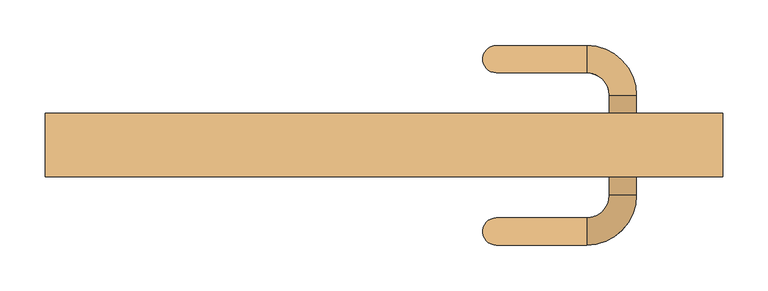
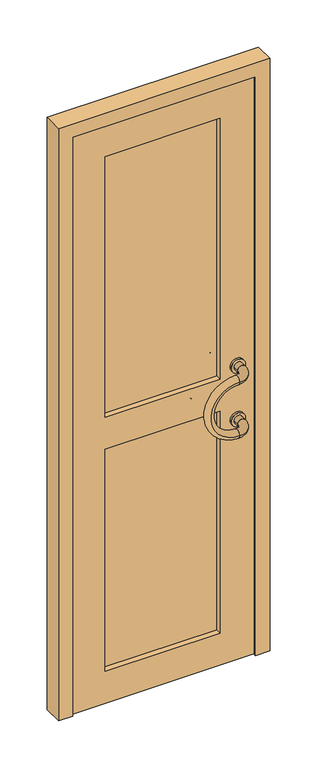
"""IFC4 building model written with IfcOpenShell, lengths in millimetres: door geometry, Simple vitrée : Simple vitrée."""

from ifc_helpers import new_model, si_unit, point, frame, frame_2d, origin, place, context, project, spatial, polyline, circle_curve, ellipse_curve, trimmed, segment, composite_curve, outline, extrude, source, transform, mapped, element, save
from ifc_brep_helpers import plane_surface, revolved_surface, advanced_brep


def door_7b7904bd(model_context):
    return source(origin(), model_context, "Body", "SolidModel", [
        extrude(outline(composite_curve([segment(trimmed(circle_curve(frame_2d((1100.0, 263.3150857)), 25.0), [point((1100.0, 288.3150857))], [point((1100.0, 238.3150857))], False, "CARTESIAN"), True, "CONTINUOUS"), segment(trimmed(circle_curve(frame_2d((1100.0, 263.3150857)), 25.0), [point((1100.0, 238.3150857))], [point((1100.0, 288.3150857))], False, "CARTESIAN"), True, "CONTINUOUS")], self_intersect=False), holes=[composite_curve([segment(trimmed(circle_curve(frame_2d((1100.0, 263.3150857)), 15.0), [point((1100.0, 278.3150857))], [point((1100.0, 248.3150857))], True, "CARTESIAN"), True, "CONTINUOUS"), segment(trimmed(circle_curve(frame_2d((1100.0, 263.3150857)), 15.0), [point((1100.0, 248.3150857))], [point((1100.0, 278.3150857))], True, "CARTESIAN"), True, "CONTINUOUS")], self_intersect=False)]), frame((0.0, -43.0, 0.0), z_axis=(0.0, 1.0, 0.0), x_axis=(0.0, 0.0, 1.0)), (0.0, 0.0, 1.0), 8.0),
        extrude(outline(composite_curve([segment(trimmed(circle_curve(frame_2d((900.0, 263.3150857)), 25.0), [point((900.0, 288.3150857))], [point((900.0, 238.3150857))], False, "CARTESIAN"), True, "CONTINUOUS"), segment(trimmed(circle_curve(frame_2d((900.0, 263.3150857)), 25.0), [point((900.0, 238.3150857))], [point((900.0, 288.3150857))], False, "CARTESIAN"), True, "CONTINUOUS")], self_intersect=False), holes=[composite_curve([segment(trimmed(circle_curve(frame_2d((900.0, 263.3150857)), 15.0), [point((900.0, 278.3150857))], [point((900.0, 248.3150857))], True, "CARTESIAN"), True, "CONTINUOUS"), segment(trimmed(circle_curve(frame_2d((900.0, 263.3150857)), 15.0), [point((900.0, 248.3150857))], [point((900.0, 278.3150857))], True, "CARTESIAN"), True, "CONTINUOUS")], self_intersect=False)]), frame((0.0, -43.0, 0.0), z_axis=(0.0, 1.0, 0.0), x_axis=(0.0, 0.0, 1.0)), (0.0, 0.0, 1.0), 8.0),
        extrude(outline(composite_curve([segment(trimmed(circle_curve(frame_2d((1100.0, 263.3150857)), 25.0), [point((1100.0, 288.3150857))], [point((1100.0, 238.3150857))], False, "CARTESIAN"), True, "CONTINUOUS"), segment(trimmed(circle_curve(frame_2d((1100.0, 263.3150857)), 25.0), [point((1100.0, 238.3150857))], [point((1100.0, 288.3150857))], False, "CARTESIAN"), True, "CONTINUOUS")], self_intersect=False), holes=[composite_curve([segment(trimmed(circle_curve(frame_2d((1100.0, 263.3150857)), 15.0), [point((1100.0, 278.3150857))], [point((1100.0, 248.3150857))], True, "CARTESIAN"), True, "CONTINUOUS"), segment(trimmed(circle_curve(frame_2d((1100.0, 263.3150857)), 15.0), [point((1100.0, 248.3150857))], [point((1100.0, 278.3150857))], True, "CARTESIAN"), True, "CONTINUOUS")], self_intersect=False)]), frame((0.0, 15.0, 0.0), z_axis=(0.0, 1.0, 0.0), x_axis=(0.0, 0.0, 1.0)), (0.0, 0.0, 1.0), 8.0),
        extrude(outline(composite_curve([segment(trimmed(circle_curve(frame_2d((900.0, 263.3150857)), 25.0), [point((900.0, 288.3150857))], [point((900.0, 238.3150857))], False, "CARTESIAN"), True, "CONTINUOUS"), segment(trimmed(circle_curve(frame_2d((900.0, 263.3150857)), 25.0), [point((900.0, 238.3150857))], [point((900.0, 288.3150857))], False, "CARTESIAN"), True, "CONTINUOUS")], self_intersect=False), holes=[composite_curve([segment(trimmed(circle_curve(frame_2d((900.0, 263.3150857)), 15.0), [point((900.0, 278.3150857))], [point((900.0, 248.3150857))], True, "CARTESIAN"), True, "CONTINUOUS"), segment(trimmed(circle_curve(frame_2d((900.0, 263.3150857)), 15.0), [point((900.0, 248.3150857))], [point((900.0, 278.3150857))], True, "CARTESIAN"), True, "CONTINUOUS")], self_intersect=False)]), frame((0.0, 15.0, 0.0), z_axis=(0.0, 1.0, 0.0), x_axis=(0.0, 0.0, 1.0)), (0.0, 0.0, 1.0), 8.0),
        advanced_brep(
        [(223.3150857, -120.0, 1100.0), (223.3150857, -90.0, 1100.0), (223.3150857, -120.0, 900.0), (223.3150857, -90.0, 900.0)],
        [
            (0, 1, circle_curve(frame((223.3150857, -105.0, 1100.0), z_axis=(1.0, 0.0, 0.0), x_axis=(0.0, 1.0, 0.0)), 15.0)),
            (1, 0, circle_curve(frame((223.3150857, -105.0, 1100.0), z_axis=(1.0, 0.0, 0.0), x_axis=(0.0, 1.0, 0.0)), 15.0)),
            (2, 3, circle_curve(frame((223.3150857, -105.0, 900.0), z_axis=(1.0, 0.0, 0.0), x_axis=(0.0, 1.0, 0.0)), 15.0)),
            (3, 2, circle_curve(frame((223.3150857, -105.0, 900.0), z_axis=(1.0, 0.0, 0.0), x_axis=(0.0, 1.0, 0.0)), 15.0)),
            (3, 1, circle_curve(frame((223.3150857, -90.0, 1000.0), z_axis=(0.0, 1.0, 0.0), x_axis=(0.0, 0.0, 1.0)), 100.0)),
            (0, 2, circle_curve(frame((223.3150857, -120.0, 1000.0), z_axis=(0.0, -1.0, 0.0), x_axis=(0.0, 0.0, 1.0)), 100.0)),
        ],
        [
            plane_surface(frame((223.3150857, -105.0, 1000.0), z_axis=(1.0, 0.0, 0.0), x_axis=(0.0, 0.0, 1.0))),
            plane_surface(frame((223.3150857, -105.0, 1000.0), z_axis=(1.0, 0.0, 0.0), x_axis=(0.0, 0.0, -1.0))),
            revolved_surface(trimmed(ellipse_curve(frame((223.3150857, -105.0, 1100.0), z_axis=(1.0, 0.0, 0.0), x_axis=(0.0, 1.0, 0.0)), 15.0, 15.0), [point((223.3150857, -120.0, 1100.0))], [point((223.3150857, -90.0, 1100.0))], True, "CARTESIAN"), (223.3150857, -105.0, 1000.0), (0.0, -1.0, 0.0)),
            revolved_surface(trimmed(ellipse_curve(frame((223.3150857, -105.0, 1100.0), z_axis=(1.0, 0.0, 0.0), x_axis=(0.0, 1.0, 0.0)), 15.0, 15.0), [point((223.3150857, -90.0, 1100.0))], [point((223.3150857, -120.0, 1100.0))], True, "CARTESIAN"), (223.3150857, -105.0, 1000.0), (0.0, -1.0, 0.0)),
        ],
        [
            (0, [[1, 2]]),
            (1, [[3, 4]]),
            (2, [[5, -1, 6, -4]]),
            (3, [[-6, -2, -5, -3]]),
        ],
    ),
        advanced_brep(
        [(248.3150857, -65.0, 1100.0), (278.3150857, -65.0, 1100.0), (223.3150857, -90.0, 1100.0), (223.3150857, -120.0, 1100.0)],
        [
            (0, 1, circle_curve(frame((263.3150857, -65.0, 1100.0), z_axis=(0.0, 1.0, 0.0), x_axis=(1.0, 0.0, 0.0)), 15.0)),
            (1, 0, circle_curve(frame((263.3150857, -65.0, 1100.0), z_axis=(0.0, 1.0, 0.0), x_axis=(1.0, 0.0, 0.0)), 15.0)),
            (2, 3, circle_curve(frame((223.3150857, -105.0, 1100.0), z_axis=(-1.0, 0.0, 0.0), x_axis=(0.0, -1.0, 0.0)), 15.0)),
            (3, 2, circle_curve(frame((223.3150857, -105.0, 1100.0), z_axis=(-1.0, 0.0, 0.0), x_axis=(0.0, -1.0, 0.0)), 15.0)),
            (3, 1, circle_curve(frame((223.3150857, -65.0, 1100.0), z_axis=(0.0, 0.0, 1.0), x_axis=(1.0, 0.0, 0.0)), 55.0)),
            (0, 2, circle_curve(frame((223.3150857, -65.0, 1100.0), z_axis=(0.0, 0.0, -1.0), x_axis=(1.0, 0.0, 0.0)), 25.0)),
        ],
        [
            plane_surface(frame((223.3150857, -65.0, 1100.0), z_axis=(0.0, 1.0, 0.0), x_axis=(1.0, 0.0, 0.0))),
            plane_surface(frame((223.3150857, -65.0, 1100.0), z_axis=(-1.0, 0.0, 0.0), x_axis=(0.0, -1.0, 0.0))),
            revolved_surface(trimmed(ellipse_curve(frame((263.3150857, -65.0, 1100.0), z_axis=(0.0, 1.0, 0.0), x_axis=(1.0, 0.0, 0.0)), 15.0, 15.0), [point((248.3150857, -65.0, 1100.0))], [point((278.3150857, -65.0, 1100.0))], True, "CARTESIAN"), (223.3150857, -65.0, 1100.0), (0.0, 0.0, -1.0)),
            revolved_surface(trimmed(ellipse_curve(frame((263.3150857, -65.0, 1100.0), z_axis=(0.0, 1.0, 0.0), x_axis=(1.0, 0.0, 0.0)), 15.0, 15.0), [point((278.3150857, -65.0, 1100.0))], [point((248.3150857, -65.0, 1100.0))], True, "CARTESIAN"), (223.3150857, -65.0, 1100.0), (0.0, 0.0, -1.0)),
        ],
        [
            (0, [[1, 2]]),
            (1, [[3, 4]]),
            (2, [[5, -1, 6, -4]]),
            (3, [[-6, -2, -5, -3]]),
        ],
    ),
        advanced_brep(
        [(248.3150857, -65.0, 900.0), (278.3150857, -65.0, 900.0), (223.3150857, -90.0, 900.0), (223.3150857, -120.0, 900.0)],
        [
            (0, 1, circle_curve(frame((263.3150857, -65.0, 900.0), z_axis=(0.0, 1.0, 0.0), x_axis=(1.0, 0.0, 0.0)), 15.0)),
            (1, 0, circle_curve(frame((263.3150857, -65.0, 900.0), z_axis=(0.0, 1.0, 0.0), x_axis=(1.0, 0.0, 0.0)), 15.0)),
            (2, 3, circle_curve(frame((223.3150857, -105.0, 900.0), z_axis=(-1.0, 0.0, 0.0), x_axis=(0.0, -1.0, 0.0)), 15.0)),
            (3, 2, circle_curve(frame((223.3150857, -105.0, 900.0), z_axis=(-1.0, 0.0, 0.0), x_axis=(0.0, -1.0, 0.0)), 15.0)),
            (3, 1, circle_curve(frame((223.3150857, -65.0, 900.0), z_axis=(0.0, 0.0, 1.0), x_axis=(1.0, 0.0, 0.0)), 55.0)),
            (0, 2, circle_curve(frame((223.3150857, -65.0, 900.0), z_axis=(0.0, 0.0, -1.0), x_axis=(1.0, 0.0, 0.0)), 25.0)),
        ],
        [
            plane_surface(frame((223.3150857, -65.0, 1100.0), z_axis=(0.0, 1.0, 0.0), x_axis=(1.0, 0.0, 0.0))),
            plane_surface(frame((223.3150857, -65.0, 1100.0), z_axis=(-1.0, 0.0, 0.0), x_axis=(0.0, -1.0, 0.0))),
            revolved_surface(trimmed(ellipse_curve(frame((263.3150857, -65.0, 900.0), z_axis=(0.0, 1.0, 0.0), x_axis=(1.0, 0.0, 0.0)), 15.0, 15.0), [point((248.3150857, -65.0, 900.0))], [point((278.3150857, -65.0, 900.0))], True, "CARTESIAN"), (223.3150857, -65.0, 1100.0), (0.0, 0.0, -1.0)),
            revolved_surface(trimmed(ellipse_curve(frame((263.3150857, -65.0, 900.0), z_axis=(0.0, 1.0, 0.0), x_axis=(1.0, 0.0, 0.0)), 15.0, 15.0), [point((278.3150857, -65.0, 900.0))], [point((248.3150857, -65.0, 900.0))], True, "CARTESIAN"), (223.3150857, -65.0, 1100.0), (0.0, 0.0, -1.0)),
        ],
        [
            (0, [[1, 2]]),
            (1, [[3, 4]]),
            (2, [[5, -1, 6, -4]]),
            (3, [[-6, -2, -5, -3]]),
        ],
    ),
        extrude(outline(composite_curve([segment(trimmed(circle_curve(frame_2d((1100.0, 263.3150857)), 15.0), [point((1100.0, 278.3150857))], [point((1100.0, 248.3150857))], False, "CARTESIAN"), True, "CONTINUOUS"), segment(trimmed(circle_curve(frame_2d((1100.0, 263.3150857)), 15.0), [point((1100.0, 248.3150857))], [point((1100.0, 278.3150857))], False, "CARTESIAN"), True, "CONTINUOUS")], self_intersect=False)), frame((0.0, -65.0, 0.0), z_axis=(0.0, 1.0, 0.0), x_axis=(0.0, 0.0, 1.0)), (0.0, 0.0, 1.0), 30.0),
        extrude(outline(composite_curve([segment(trimmed(circle_curve(frame_2d((900.0, 263.3150857)), 15.0), [point((900.0, 278.3150857))], [point((900.0, 248.3150857))], False, "CARTESIAN"), True, "CONTINUOUS"), segment(trimmed(circle_curve(frame_2d((900.0, 263.3150857)), 15.0), [point((900.0, 248.3150857))], [point((900.0, 278.3150857))], False, "CARTESIAN"), True, "CONTINUOUS")], self_intersect=False)), frame((0.0, -65.0, 0.0), z_axis=(0.0, 1.0, 0.0), x_axis=(0.0, 0.0, 1.0)), (0.0, 0.0, 1.0), 30.0),
        advanced_brep(
        [(223.3150857, 70.0, 1100.0), (223.3150857, 100.0, 1100.0), (223.3150857, 70.0, 900.0), (223.3150857, 100.0, 900.0)],
        [
            (0, 1, circle_curve(frame((223.3150857, 85.0, 1100.0), z_axis=(1.0, 0.0, 0.0), x_axis=(0.0, 1.0, 0.0)), 15.0)),
            (1, 0, circle_curve(frame((223.3150857, 85.0, 1100.0), z_axis=(1.0, 0.0, 0.0), x_axis=(0.0, 1.0, 0.0)), 15.0)),
            (2, 3, circle_curve(frame((223.3150857, 85.0, 900.0), z_axis=(1.0, 0.0, 0.0), x_axis=(0.0, 1.0, 0.0)), 15.0)),
            (3, 2, circle_curve(frame((223.3150857, 85.0, 900.0), z_axis=(1.0, 0.0, 0.0), x_axis=(0.0, 1.0, 0.0)), 15.0)),
            (3, 1, circle_curve(frame((223.3150857, 100.0, 1000.0), z_axis=(0.0, 1.0, 0.0), x_axis=(0.0, 0.0, 1.0)), 100.0)),
            (0, 2, circle_curve(frame((223.3150857, 70.0, 1000.0), z_axis=(0.0, -1.0, 0.0), x_axis=(0.0, 0.0, 1.0)), 100.0)),
        ],
        [
            plane_surface(frame((223.3150857, 100.0, 1000.0), z_axis=(1.0, 0.0, 0.0), x_axis=(0.0, 0.0, 1.0))),
            plane_surface(frame((223.3150857, 100.0, 1000.0), z_axis=(1.0, 0.0, 0.0), x_axis=(0.0, 0.0, -1.0))),
            revolved_surface(trimmed(ellipse_curve(frame((223.3150857, 85.0, 1100.0), z_axis=(1.0, 0.0, 0.0), x_axis=(0.0, 1.0, 0.0)), 15.0, 15.0), [point((223.3150857, 70.0, 1100.0))], [point((223.3150857, 100.0, 1100.0))], True, "CARTESIAN"), (223.3150857, 100.0, 1000.0), (0.0, -1.0, 0.0)),
            revolved_surface(trimmed(ellipse_curve(frame((223.3150857, 85.0, 1100.0), z_axis=(1.0, 0.0, 0.0), x_axis=(0.0, 1.0, 0.0)), 15.0, 15.0), [point((223.3150857, 100.0, 1100.0))], [point((223.3150857, 70.0, 1100.0))], True, "CARTESIAN"), (223.3150857, 100.0, 1000.0), (0.0, -1.0, 0.0)),
        ],
        [
            (0, [[1, 2]]),
            (1, [[3, 4]]),
            (2, [[5, -1, 6, -4]]),
            (3, [[-6, -2, -5, -3]]),
        ],
    ),
        advanced_brep(
        [(278.3150857, 45.0, 1100.0), (248.3150857, 45.0, 1100.0), (223.3150857, 100.0, 1100.0), (223.3150857, 70.0, 1100.0)],
        [
            (0, 1, circle_curve(frame((263.3150857, 45.0, 1100.0), z_axis=(0.0, -1.0, 0.0), x_axis=(-1.0, 0.0, 0.0)), 15.0)),
            (1, 0, circle_curve(frame((263.3150857, 45.0, 1100.0), z_axis=(0.0, -1.0, 0.0), x_axis=(-1.0, 0.0, 0.0)), 15.0)),
            (2, 3, circle_curve(frame((223.3150857, 85.0, 1100.0), z_axis=(-1.0, 0.0, 0.0), x_axis=(0.0, -1.0, 0.0)), 15.0)),
            (3, 2, circle_curve(frame((223.3150857, 85.0, 1100.0), z_axis=(-1.0, 0.0, 0.0), x_axis=(0.0, -1.0, 0.0)), 15.0)),
            (3, 1, circle_curve(frame((223.3150857, 45.0, 1100.0), z_axis=(0.0, 0.0, -1.0), x_axis=(1.0, 0.0, 0.0)), 25.0)),
            (0, 2, circle_curve(frame((223.3150857, 45.0, 1100.0), z_axis=(0.0, 0.0, 1.0), x_axis=(1.0, 0.0, 0.0)), 55.0)),
        ],
        [
            plane_surface(frame((223.3150857, 45.0, 1100.0), z_axis=(0.0, -1.0, 0.0), x_axis=(1.0, 0.0, 0.0))),
            plane_surface(frame((223.3150857, 45.0, 1100.0), z_axis=(-1.0, 0.0, 0.0), x_axis=(0.0, 1.0, 0.0))),
            revolved_surface(trimmed(ellipse_curve(frame((263.3150857, 45.0, 1100.0), z_axis=(0.0, -1.0, 0.0), x_axis=(-1.0, 0.0, 0.0)), 15.0, 15.0), [point((278.3150857, 45.0, 1100.0))], [point((248.3150857, 45.0, 1100.0))], True, "CARTESIAN"), (223.3150857, 45.0, 1100.0), (0.0, 0.0, 1.0)),
            revolved_surface(trimmed(ellipse_curve(frame((263.3150857, 45.0, 1100.0), z_axis=(0.0, -1.0, 0.0), x_axis=(-1.0, 0.0, 0.0)), 15.0, 15.0), [point((248.3150857, 45.0, 1100.0))], [point((278.3150857, 45.0, 1100.0))], True, "CARTESIAN"), (223.3150857, 45.0, 1100.0), (0.0, 0.0, 1.0)),
        ],
        [
            (0, [[1, 2]]),
            (1, [[3, 4]]),
            (2, [[5, -1, 6, -4]]),
            (3, [[-6, -2, -5, -3]]),
        ],
    ),
        advanced_brep(
        [(278.3150857, 45.0, 900.0), (248.3150857, 45.0, 900.0), (223.3150857, 100.0, 900.0), (223.3150857, 70.0, 900.0)],
        [
            (0, 1, circle_curve(frame((263.3150857, 45.0, 900.0), z_axis=(0.0, -1.0, 0.0), x_axis=(-1.0, 0.0, 0.0)), 15.0)),
            (1, 0, circle_curve(frame((263.3150857, 45.0, 900.0), z_axis=(0.0, -1.0, 0.0), x_axis=(-1.0, 0.0, 0.0)), 15.0)),
            (2, 3, circle_curve(frame((223.3150857, 85.0, 900.0), z_axis=(-1.0, 0.0, 0.0), x_axis=(0.0, -1.0, 0.0)), 15.0)),
            (3, 2, circle_curve(frame((223.3150857, 85.0, 900.0), z_axis=(-1.0, 0.0, 0.0), x_axis=(0.0, -1.0, 0.0)), 15.0)),
            (3, 1, circle_curve(frame((223.3150857, 45.0, 900.0), z_axis=(0.0, 0.0, -1.0), x_axis=(1.0, 0.0, 0.0)), 25.0)),
            (0, 2, circle_curve(frame((223.3150857, 45.0, 900.0), z_axis=(0.0, 0.0, 1.0), x_axis=(1.0, 0.0, 0.0)), 55.0)),
        ],
        [
            plane_surface(frame((223.3150857, 45.0, 1100.0), z_axis=(0.0, -1.0, 0.0), x_axis=(1.0, 0.0, 0.0))),
            plane_surface(frame((223.3150857, 45.0, 1100.0), z_axis=(-1.0, 0.0, 0.0), x_axis=(0.0, 1.0, 0.0))),
            revolved_surface(trimmed(ellipse_curve(frame((263.3150857, 45.0, 900.0), z_axis=(0.0, -1.0, 0.0), x_axis=(-1.0, 0.0, 0.0)), 15.0, 15.0), [point((278.3150857, 45.0, 900.0))], [point((248.3150857, 45.0, 900.0))], True, "CARTESIAN"), (223.3150857, 45.0, 1100.0), (0.0, 0.0, 1.0)),
            revolved_surface(trimmed(ellipse_curve(frame((263.3150857, 45.0, 900.0), z_axis=(0.0, -1.0, 0.0), x_axis=(-1.0, 0.0, 0.0)), 15.0, 15.0), [point((248.3150857, 45.0, 900.0))], [point((278.3150857, 45.0, 900.0))], True, "CARTESIAN"), (223.3150857, 45.0, 1100.0), (0.0, 0.0, 1.0)),
        ],
        [
            (0, [[1, 2]]),
            (1, [[3, 4]]),
            (2, [[5, -1, 6, -4]]),
            (3, [[-6, -2, -5, -3]]),
        ],
    ),
        extrude(outline(composite_curve([segment(trimmed(circle_curve(frame_2d((1100.0, 263.3150857)), 15.0), [point((1100.0, 278.3150857))], [point((1100.0, 248.3150857))], False, "CARTESIAN"), True, "CONTINUOUS"), segment(trimmed(circle_curve(frame_2d((1100.0, 263.3150857)), 15.0), [point((1100.0, 248.3150857))], [point((1100.0, 278.3150857))], False, "CARTESIAN"), True, "CONTINUOUS")], self_intersect=False)), frame((0.0, 15.0, 0.0), z_axis=(0.0, 1.0, 0.0), x_axis=(0.0, 0.0, 1.0)), (0.0, 0.0, 1.0), 30.0),
        extrude(outline(composite_curve([segment(trimmed(circle_curve(frame_2d((900.0, 263.3150857)), 15.0), [point((900.0, 278.3150857))], [point((900.0, 248.3150857))], False, "CARTESIAN"), True, "CONTINUOUS"), segment(trimmed(circle_curve(frame_2d((900.0, 263.3150857)), 15.0), [point((900.0, 248.3150857))], [point((900.0, 278.3150857))], False, "CARTESIAN"), True, "CONTINUOUS")], self_intersect=False)), frame((0.0, 15.0, 0.0), z_axis=(0.0, 1.0, 0.0), x_axis=(0.0, 0.0, 1.0)), (0.0, 0.0, 1.0), 30.0),
        extrude(outline(polyline([(0.0, -323.3150857), (2160.5020405, -323.3150857), (2160.5020405, 323.3150857), (0.0, 323.3150857), (0.0, 373.3150857), (2210.5020405, 373.3150857), (2210.5020405, -373.3150857), (0.0, -373.3150857), (0.0, -323.3150857)])), frame((0.0, -45.0, 0.0), z_axis=(0.0, 1.0, 0.0), x_axis=(0.0, 0.0, 1.0)), (0.0, 0.0, 1.0), 70.0),
        extrude(outline(polyline([(203.3150857, -5.0), (203.3150857, -15.0), (-203.3150857, -15.0), (-203.3150857, -5.0), (203.3150857, -5.0)])), frame((0.0, 0.0, 120.0), z_axis=(0.0, 0.0, 1.0), x_axis=(1.0, 0.0, 0.0)), (0.0, 0.0, 1.0), 1920.5020405),
        extrude(outline(polyline([(2160.5020405, 323.3150857), (2160.5020405, -323.3150857), (0.0, -323.3150857), (0.0, 323.3150857), (2160.5020405, 323.3150857)]), holes=[polyline([(2040.5020405, 203.3150857), (1067.5687603, 203.3150857), (1067.5687603, -203.3150857), (2040.5020405, -203.3150857), (2040.5020405, 203.3150857)]), polyline([(947.5687603, -203.3150857), (947.5687603, 203.3150857), (120.0, 203.3150857), (120.0, -203.3150857), (947.5687603, -203.3150857)])]), frame((0.0, -35.0, 0.0), z_axis=(0.0, 1.0, 0.0), x_axis=(0.0, 0.0, 1.0)), (0.0, 0.0, 1.0), 50.0),
    ])


if __name__ == "__main__":
    model = new_model("IFC4")
    model_context = context("Model", 3, world=origin())
    ifc_project = project(units=[si_unit("LENGTHUNIT", "METRE", prefix="MILLI")], contexts=[model_context])
    site = spatial("IfcSite", under=ifc_project)
    building = spatial("IfcBuilding", under=site)
    placement = place(None, origin())
    door_shape = door_7b7904bd(model_context)
    element("IfcDoor", 1, ObjectType="Simple vitrée : Simple vitrée", at=placement, inside=building, context=model_context, shape_type="MappedRepresentation", body=[
        mapped(door_shape, transform((0.0, 0.0, 0.0), x_axis=(1.0, 0.0, 0.0), y_axis=(0.0, 1.0, 0.0), z_axis=(0.0, 0.0, 1.0))),
    ])
    save(model, "model.ifc")
